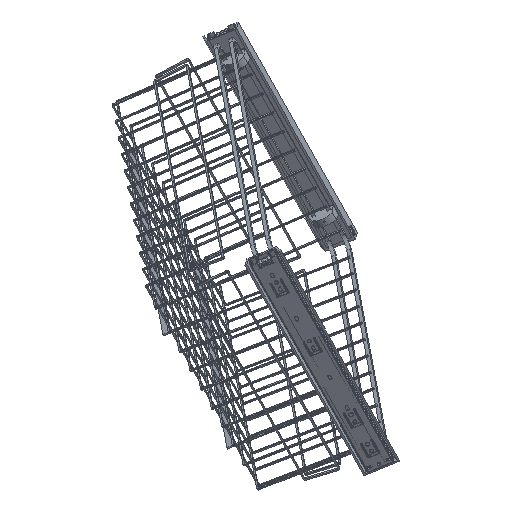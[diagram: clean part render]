
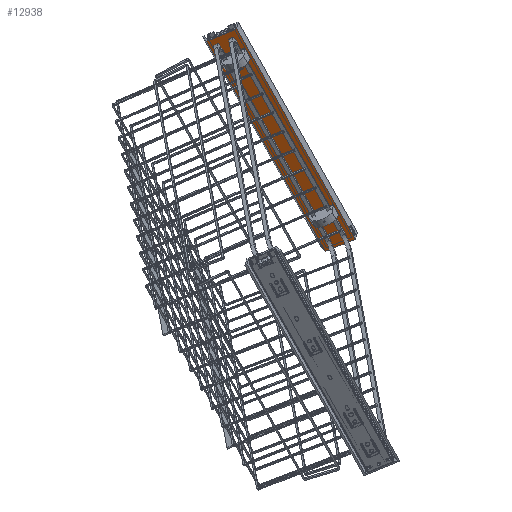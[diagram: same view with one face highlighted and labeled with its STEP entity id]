
A CAD part, top view. The second image highlights one B-rep face of the part: STEP entity #12938.
In plain terms, the highlighted planar face has unit normal (0.115, -0.62, 0.776) as drawn and (1, 0, 0) by its records, which use the part's own axes.
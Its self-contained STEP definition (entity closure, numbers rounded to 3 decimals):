
#572=FACE_BOUND('',#2020,.T.);
#573=FACE_BOUND('',#2021,.T.);
#826=PLANE('',#14078);
#1324=FACE_OUTER_BOUND('',#2019,.T.);
#2019=EDGE_LOOP('',(#10009,#10010,#10011,#10012));
#2020=EDGE_LOOP('',(#10013));
#2021=EDGE_LOOP('',(#10014,#10015,#10016,#10017));
#2619=CIRCLE('',#14069,2.15);
#2620=CIRCLE('',#14071,2.15);
#2621=CIRCLE('',#14074,2.15);
#3391=LINE('',#19712,#4781);
#3397=LINE('',#19721,#4787);
#3402=LINE('',#19736,#4792);
#3405=LINE('',#19743,#4795);
#3407=LINE('',#19748,#4797);
#3408=LINE('',#19750,#4798);
#4781=VECTOR('',#15937,10.);
#4787=VECTOR('',#15947,10.);
#4792=VECTOR('',#15964,10.);
#4795=VECTOR('',#15973,10.);
#4797=VECTOR('',#15979,10.);
#4798=VECTOR('',#15982,10.);
#6074=VERTEX_POINT('',#19709);
#6075=VERTEX_POINT('',#19711);
#6076=VERTEX_POINT('',#19719);
#6077=VERTEX_POINT('',#19725);
#6078=VERTEX_POINT('',#19729);
#6079=VERTEX_POINT('',#19731);
#6080=VERTEX_POINT('',#19735);
#6081=VERTEX_POINT('',#19739);
#6082=VERTEX_POINT('',#19746);
#7514=EDGE_CURVE('',#6074,#6075,#3391,.T.);
#7520=EDGE_CURVE('',#6076,#6074,#3397,.T.);
#7522=EDGE_CURVE('',#6077,#6077,#2619,.T.);
#7525=EDGE_CURVE('',#6079,#6078,#2620,.T.);
#7527=EDGE_CURVE('',#6080,#6079,#3402,.T.);
#7529=EDGE_CURVE('',#6081,#6080,#2621,.T.);
#7531=EDGE_CURVE('',#6078,#6081,#3405,.T.);
#7533=EDGE_CURVE('',#6076,#6082,#3407,.T.);
#7534=EDGE_CURVE('',#6075,#6082,#3408,.T.);
#10009=ORIENTED_EDGE('',*,*,#7520,.F.);
#10010=ORIENTED_EDGE('',*,*,#7533,.T.);
#10011=ORIENTED_EDGE('',*,*,#7534,.F.);
#10012=ORIENTED_EDGE('',*,*,#7514,.F.);
#10013=ORIENTED_EDGE('',*,*,#7522,.T.);
#10014=ORIENTED_EDGE('',*,*,#7529,.T.);
#10015=ORIENTED_EDGE('',*,*,#7527,.T.);
#10016=ORIENTED_EDGE('',*,*,#7525,.T.);
#10017=ORIENTED_EDGE('',*,*,#7531,.T.);
#12938=ADVANCED_FACE('',(#1324,#572,#573),#826,.T.);
#14069=AXIS2_PLACEMENT_3D('',#19726,#15953,#15954);
#14071=AXIS2_PLACEMENT_3D('',#19732,#15959,#15960);
#14074=AXIS2_PLACEMENT_3D('',#19740,#15968,#15969);
#14078=AXIS2_PLACEMENT_3D('',#19749,#15980,#15981);
#15937=DIRECTION('',(0.,0.,1.));
#15947=DIRECTION('',(0.,-1.,0.));
#15953=DIRECTION('center_axis',(-1.,0.,0.));
#15954=DIRECTION('ref_axis',(0.,0.,
1.));
#15959=DIRECTION('center_axis',(-1.,0.,0.));
#15960=DIRECTION('ref_axis',(0.,1.,0.));
#15964=DIRECTION('',(0.,0.,-1.));
#15968=DIRECTION('center_axis',(-1.,0.,0.));
#15969=DIRECTION('ref_axis',(0.,-1.,0.));
#15973=DIRECTION('',(0.,0.,1.));
#15979=DIRECTION('',(0.,0.,1.));
#15980=DIRECTION('center_axis',(1.,0.,0.));
#15981=DIRECTION('ref_axis',(0.,1.,0.));
#15982=DIRECTION('',(0.,1.,0.));
#19709=CARTESIAN_POINT('',(3.486,-45.761,0.));
#19711=CARTESIAN_POINT('',(3.486,-45.761,458.));
#19712=CARTESIAN_POINT('',(3.486,-45.761,0.));
#19719=CARTESIAN_POINT('',(3.486,3.633,0.));
#19721=CARTESIAN_POINT('',(3.486,3.633,0.));
#19725=CARTESIAN_POINT('',(3.486,-21.065,387.85));
#19726=CARTESIAN_POINT('Origin',(3.486,-21.065,390.));
#19729=CARTESIAN_POINT('',(3.486,-23.228,45.));
#19731=CARTESIAN_POINT('',(3.486,-18.928,45.));
#19732=CARTESIAN_POINT('Origin',(3.486,-21.078,45.));
#19735=CARTESIAN_POINT('',(3.486,-18.928,73.));
#19736=CARTESIAN_POINT('',(3.486,-18.928,36.5));
#19739=CARTESIAN_POINT('',(3.486,-23.228,73.));
#19740=CARTESIAN_POINT('Origin',(3.486,-21.078,73.));
#19743=CARTESIAN_POINT('',(3.486,-23.228,22.5));
#19746=CARTESIAN_POINT('',(3.486,3.633,458.));
#19748=CARTESIAN_POINT('',(3.486,3.633,0.));
#19749=CARTESIAN_POINT('Origin',(3.486,-21.064,0.));
#19750=CARTESIAN_POINT('',(3.486,-21.064,458.));
